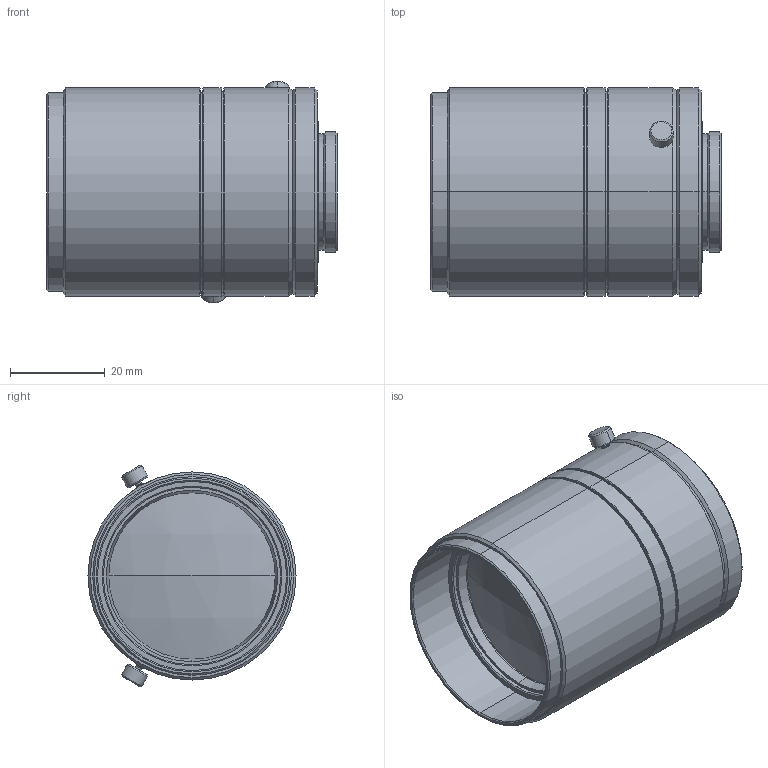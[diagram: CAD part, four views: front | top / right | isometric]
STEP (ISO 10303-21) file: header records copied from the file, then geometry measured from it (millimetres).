
FILE_DESCRIPTION (( 'STEP AP203' ), '1' );
FILE_NAME ('SV-5014H.STEP', '2014-07-07T00:25:15', ( '' ), ( '' ), 'SwSTEP 2.0', 'SolidWorks 2014', '' );
FILE_SCHEMA (( 'CONFIG_CONTROL_DESIGN' ));
Length unit declared in the file: millimetre
Products named in the file (1): SV-5014H
Bounding box: 61.5 x 44.01 x 46.89 mm (x, y, z)
Volume: 71491.6 mm3; surface area: 13759 mm2
Topology: 1 solids, 1 shells, 122 faces, 246 edges, 144 vertices
Faces by surface type: cone 54, cylinder 46, plane 18, sphere 4
Entity records: 3305 total; most frequent: DIRECTION 630, CARTESIAN_POINT 577, ORIENTED_EDGE 492, AXIS2_PLACEMENT_3D 265, EDGE_CURVE 246, VERTEX_POINT 144, CIRCLE 142, EDGE_LOOP 140
